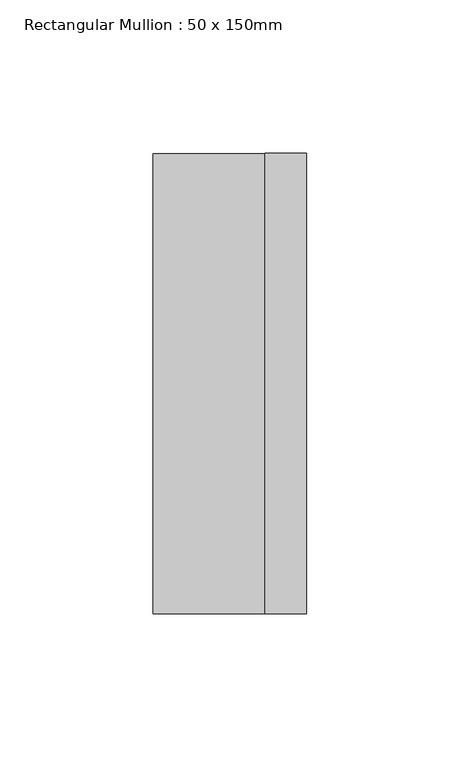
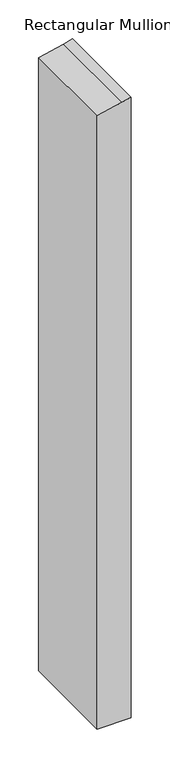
"""IFC4 building model written with IfcOpenShell, lengths in millimetres: member geometry, Rectangular Mullion : 50 x 150mm."""

from ifc_helpers import new_model, si_unit, frame, origin, place, context, project, spatial, polyline, outline, extrude, source, transform, mapped, element, save


def rectangular_mullion_50_x_150mm_e535557f(model_context):
    return source(origin(), model_context, "Body", "SweptSolid", [
        extrude(outline(polyline([(-45.4880193, 25.0), (-48.6748048, 11.4351816), (-57.2345292, -25.0), (-1017.0280016, -25.0), (-1017.0280016, 25.0), (-45.4880193, 25.0)])), frame((0.0, -75.0, 0.0), z_axis=(0.0, 1.0, 0.0), x_axis=(0.0, 0.0, 1.0)), (0.0, 0.0, 1.0), 150.0),
    ])


if __name__ == "__main__":
    model = new_model("IFC4")
    model_context = context("Model", 3, world=origin())
    ifc_project = project(units=[si_unit("LENGTHUNIT", "METRE", prefix="MILLI")], contexts=[model_context])
    site = spatial("IfcSite", under=ifc_project)
    building = spatial("IfcBuilding", under=site)
    placement = place(None, origin())
    rectangular_mullion_50_x_150mm_shape = rectangular_mullion_50_x_150mm_e535557f(model_context)
    element("IfcMember", 1, ObjectType="Rectangular Mullion : 50 x 150mm", at=placement, inside=building, context=model_context, shape_type="MappedRepresentation", body=[
        mapped(rectangular_mullion_50_x_150mm_shape, transform((0.0, 0.0, 0.0), x_axis=(1.0, 0.0, 0.0), y_axis=(0.0, 1.0, 0.0), z_axis=(0.0, 0.0, 1.0))),
    ])
    save(model, "model.ifc")
